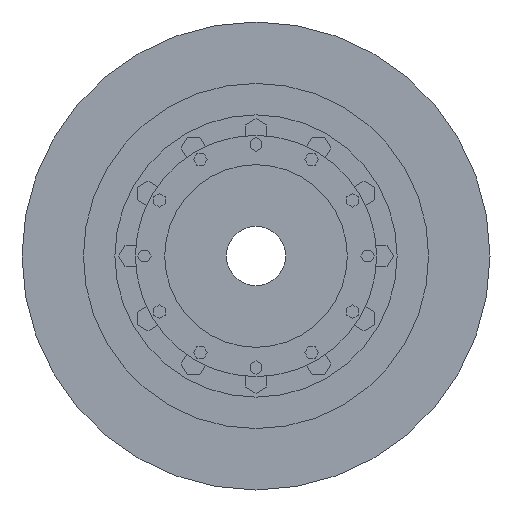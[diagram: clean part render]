
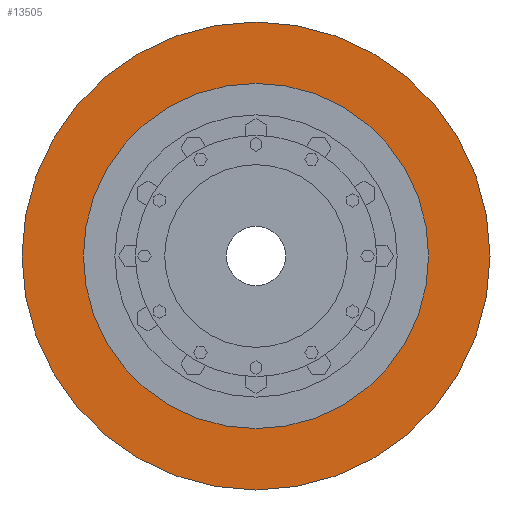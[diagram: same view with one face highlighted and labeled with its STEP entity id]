
A CAD part, left-side view. The second image highlights one B-rep face of the part: STEP entity #13505.
In plain terms, the highlighted planar face has unit normal (-1, 0, 0).
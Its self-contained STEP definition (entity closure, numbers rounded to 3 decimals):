
#13302=CARTESIAN_POINT('',(-46.,0.,0.));
#13303=DIRECTION('',(-1.,0.,0.));
#13304=DIRECTION('',(0.,1.,0.));
#13305=AXIS2_PLACEMENT_3D('',#13302,#13303,#13304);
#13307=CARTESIAN_POINT('',(-46.,0.,0.));
#13308=DIRECTION('',(1.,0.,0.));
#13309=DIRECTION('',(0.,1.,0.));
#13310=AXIS2_PLACEMENT_3D('',#13307,#13308,#13309);
#13312=CARTESIAN_POINT('',(-46.,0.,0.));
#13313=DIRECTION('',(1.,0.,0.));
#13314=DIRECTION('',(0.,1.,0.));
#13315=AXIS2_PLACEMENT_3D('',#13312,#13313,#13314);
#13325=CARTESIAN_POINT('',(-46.,0.,0.));
#13326=DIRECTION('',(-1.,0.,0.));
#13327=DIRECTION('',(0.,1.,0.));
#13328=AXIS2_PLACEMENT_3D('',#13325,#13326,#13327);
#13348=CARTESIAN_POINT('',(-46.,189.6,0.));
#13350=VERTEX_POINT('',#13348);
#13360=CARTESIAN_POINT('',(-46.,-189.6,0.));
#13362=VERTEX_POINT('',#13360);
#13365=CARTESIAN_POINT('',(-46.,257.,0.));
#13367=VERTEX_POINT('',#13365);
#13369=CARTESIAN_POINT('',(-46.,-257.,0.));
#13371=VERTEX_POINT('',#13369);
#13490=CARTESIAN_POINT('',(-46.,0.,0.));
#13491=DIRECTION('',(1.,0.,0.));
#13492=DIRECTION('',(0.,-1.,0.));
#13493=AXIS2_PLACEMENT_3D('',#13490,#13491,#13492);
#13494=PLANE('',#13493);
#13495=ORIENTED_EDGE('',*,*,#13483,.F.);
#13496=ORIENTED_EDGE('',*,*,#13472,.T.);
#13497=EDGE_LOOP('',(#13495,#13496));
#13498=FACE_OUTER_BOUND('',#13497,.F.);
#13500=ORIENTED_EDGE('',*,*,#13499,.F.);
#13502=ORIENTED_EDGE('',*,*,#13501,.T.);
#13503=EDGE_LOOP('',(#13500,#13502));
#13504=FACE_BOUND('',#13503,.F.);
#13505=ADVANCED_FACE('',(#13498,#13504),#13494,.F.);
#13306=CIRCLE('',#13305,257.);
#13311=CIRCLE('',#13310,257.);
#13316=CIRCLE('',#13315,189.6);
#13329=CIRCLE('',#13328,189.6);
#13472=EDGE_CURVE('',#13367,#13371,#13311,.T.);
#13483=EDGE_CURVE('',#13367,#13371,#13306,.T.);
#13499=EDGE_CURVE('',#13350,#13362,#13316,.T.);
#13501=EDGE_CURVE('',#13350,#13362,#13329,.T.);
